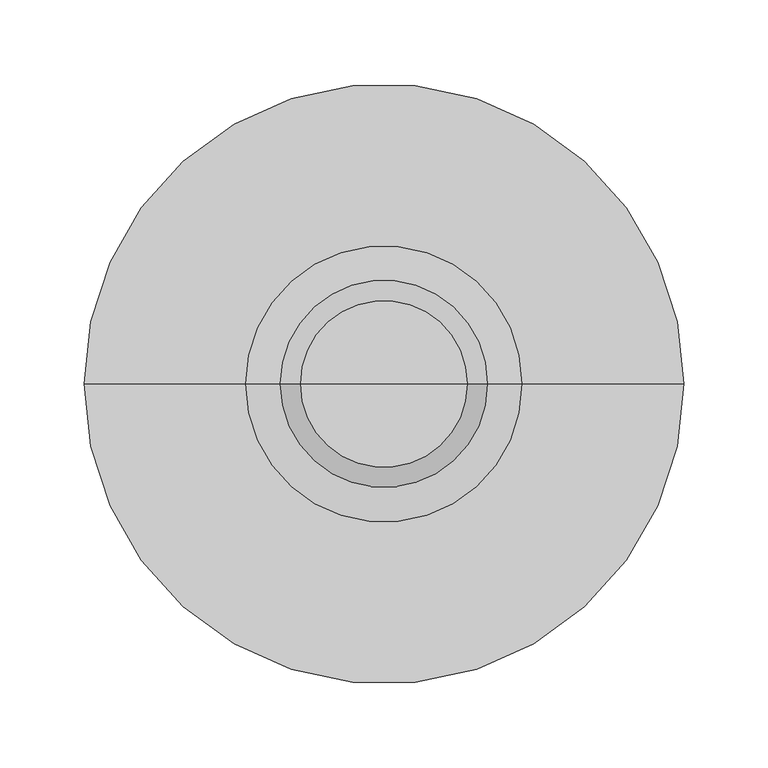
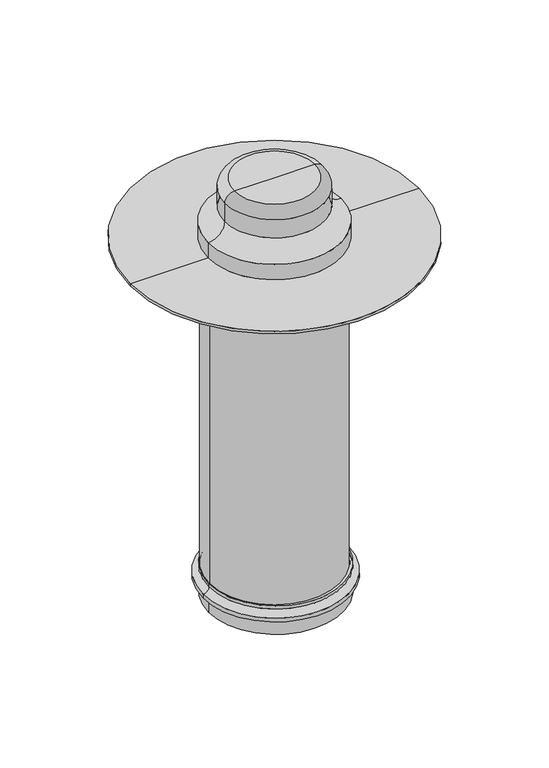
"""IFC4 building model written with IfcOpenShell, lengths in millimetres: flow terminal geometry, BIMLIB_НадставнойЭлемент_Fachmann_VMN : 160х450."""

from ifc_helpers import new_model, si_unit, point, frame, origin, origin_with_axes, place, context, project, spatial, polyline, circle_curve, ellipse_curve, trimmed, source, transform, mapped, element, save
from ifc_brep_helpers import plane_surface, cylinder_surface, revolved_surface, advanced_brep


def flow_terminal_ee0323fd(model_context):
    return source(origin(), model_context, "Body", "AdvancedBrep", [
        advanced_brep(
        [(-53.5, 0.0, -459.0), (56.5, 0.0, -459.0), (56.5, 0.0, -445.0), (-53.5, 0.0, -445.0), (-56.5, 0.0, -459.0), (59.5, 0.0, -459.0), (-56.5, 0.0, -448.0), (59.5, 0.0, -448.0), (-78.0, 0.0, -448.0), (81.0, 0.0, -448.0), (-78.0, 0.0, -459.0), (81.0, 0.0, -459.0), (-81.0, 0.0, -459.0), (84.0, 0.0, -459.0), (-81.0, 0.0, -438.0), (84.0, 0.0, -438.0), (-88.0, 0.0, -438.0), (91.0, 0.0, -438.0), (-88.0, 0.0, -433.0), (91.0, 0.0, -433.0), (-81.0, 0.0, -426.0), (84.0, 0.0, -426.0), (-81.0, 0.0, -422.0), (84.0, 0.0, -422.0), (-78.0, 0.0, -422.0), (81.0, 0.0, -422.0), (-78.0, 0.0, -445.0), (81.0, 0.0, -445.0)],
        [
            (0, 1, circle_curve(frame((1.5, 0.0, -459.0), z_axis=(0.0, 0.0, -1.0), x_axis=(1.0, 0.0, 0.0)), 55.0)),
            (1, 2),
            (2, 3, circle_curve(frame((1.5, 0.0, -445.0), z_axis=(0.0, 0.0, 1.0), x_axis=(1.0, 0.0, 0.0)), 55.0)),
            (3, 0),
            (1, 0, circle_curve(frame((1.5, 0.0, -459.0), z_axis=(0.0, 0.0, -1.0), x_axis=(1.0, 0.0, 0.0)), 55.0)),
            (3, 2, circle_curve(frame((1.5, 0.0, -445.0), z_axis=(0.0, 0.0, 1.0), x_axis=(1.0, 0.0, 0.0)), 55.0)),
            (4, 5, circle_curve(frame((1.5, 0.0, -459.0), z_axis=(0.0, 0.0, -1.0), x_axis=(1.0, 0.0, 0.0)), 58.0)),
            (5, 1),
            (0, 4),
            (5, 4, circle_curve(frame((1.5, 0.0, -459.0), z_axis=(0.0, 0.0, -1.0), x_axis=(1.0, 0.0, 0.0)), 58.0)),
            (6, 7, circle_curve(frame((1.5, 0.0, -448.0), z_axis=(0.0, 0.0, -1.0), x_axis=(1.0, 0.0, 0.0)), 58.0)),
            (7, 5),
            (4, 6),
            (7, 6, circle_curve(frame((1.5, 0.0, -448.0), z_axis=(0.0, 0.0, -1.0), x_axis=(1.0, 0.0, 0.0)), 58.0)),
            (8, 9, circle_curve(frame((1.5, 0.0, -448.0), z_axis=(0.0, 0.0, -1.0), x_axis=(1.0, 0.0, 0.0)), 79.5)),
            (9, 7),
            (6, 8),
            (9, 8, circle_curve(frame((1.5, 0.0, -448.0), z_axis=(0.0, 0.0, -1.0), x_axis=(1.0, 0.0, 0.0)), 79.5)),
            (10, 11, circle_curve(frame((1.5, 0.0, -459.0), z_axis=(0.0, 0.0, -1.0), x_axis=(1.0, 0.0, 0.0)), 79.5)),
            (11, 9),
            (8, 10),
            (11, 10, circle_curve(frame((1.5, 0.0, -459.0), z_axis=(0.0, 0.0, -1.0), x_axis=(1.0, 0.0, 0.0)), 79.5)),
            (12, 13, circle_curve(frame((1.5, 0.0, -459.0), z_axis=(0.0, 0.0, -1.0), x_axis=(1.0, 0.0, 0.0)), 82.5)),
            (13, 11),
            (10, 12),
            (13, 12, circle_curve(frame((1.5, 0.0, -459.0), z_axis=(0.0, 0.0, -1.0), x_axis=(1.0, 0.0, 0.0)), 82.5)),
            (14, 15, circle_curve(frame((1.5, 0.0, -438.0), z_axis=(0.0, 0.0, -1.0), x_axis=(1.0, 0.0, 0.0)), 82.5)),
            (15, 13),
            (12, 14),
            (15, 14, circle_curve(frame((1.5, 0.0, -438.0), z_axis=(0.0, 0.0, -1.0), x_axis=(1.0, 0.0, 0.0)), 82.5)),
            (16, 17, circle_curve(frame((1.5, 0.0, -438.0), z_axis=(0.0, 0.0, -1.0), x_axis=(1.0, 0.0, 0.0)), 89.5)),
            (17, 15),
            (14, 16),
            (17, 16, circle_curve(frame((1.5, 0.0, -438.0), z_axis=(0.0, 0.0, -1.0), x_axis=(1.0, 0.0, 0.0)), 89.5)),
            (18, 19, circle_curve(frame((1.5, 0.0, -433.0), z_axis=(0.0, 0.0, -1.0), x_axis=(1.0, 0.0, 0.0)), 89.5)),
            (19, 17),
            (16, 18),
            (19, 18, circle_curve(frame((1.5, 0.0, -433.0), z_axis=(0.0, 0.0, -1.0), x_axis=(1.0, 0.0, 0.0)), 89.5)),
            (20, 21, circle_curve(frame((1.5, 0.0, -426.0), z_axis=(0.0, 0.0, -1.0), x_axis=(1.0, 0.0, 0.0)), 82.5)),
            (21, 19, circle_curve(frame((91.0, 0.0, -426.0), z_axis=(0.0, -1.0, 0.0), x_axis=(1.0, 0.0, 0.0)), 7.0)),
            (18, 20, circle_curve(frame((-88.0, 0.0, -426.0), z_axis=(0.0, -1.0, 0.0), x_axis=(-1.0, 0.0, 0.0)), 7.0)),
            (21, 20, circle_curve(frame((1.5, 0.0, -426.0), z_axis=(0.0, 0.0, -1.0), x_axis=(1.0, 0.0, 0.0)), 82.5)),
            (22, 23, circle_curve(frame((1.5, 0.0, -422.0), z_axis=(0.0, 0.0, -1.0), x_axis=(1.0, 0.0, 0.0)), 82.5)),
            (23, 21),
            (20, 22),
            (23, 22, circle_curve(frame((1.5, 0.0, -422.0), z_axis=(0.0, 0.0, -1.0), x_axis=(1.0, 0.0, 0.0)), 82.5)),
            (24, 25, circle_curve(frame((1.5, 0.0, -422.0), z_axis=(0.0, 0.0, -1.0), x_axis=(1.0, 0.0, 0.0)), 79.5)),
            (25, 23),
            (22, 24),
            (25, 24, circle_curve(frame((1.5, 0.0, -422.0), z_axis=(0.0, 0.0, -1.0), x_axis=(1.0, 0.0, 0.0)), 79.5)),
            (26, 27, circle_curve(frame((1.5, 0.0, -445.0), z_axis=(0.0, 0.0, -1.0), x_axis=(1.0, 0.0, 0.0)), 79.5)),
            (27, 25),
            (24, 26),
            (27, 26, circle_curve(frame((1.5, 0.0, -445.0), z_axis=(0.0, 0.0, -1.0), x_axis=(1.0, 0.0, 0.0)), 79.5)),
            (2, 27),
            (26, 3),
        ],
        [
            revolved_surface(polyline([(56.5, 0.0, -445.0), (56.5, 0.0, -459.0)]), (1.5, 0.0, -119.0), (0.0, 0.0, 1.0)),
            plane_surface(frame((1.5, 0.0, -459.0), z_axis=(0.0, 0.0, -1.0), x_axis=(1.0, 0.0, 0.0))),
            cylinder_surface(frame((1.5, 0.0, -119.0), z_axis=(0.0, 0.0, 1.0), x_axis=(1.0, 0.0, 0.0)), 58.0),
            plane_surface(frame((1.5, 0.0, -448.0), z_axis=(0.0, 0.0, -1.0), x_axis=(1.0, 0.0, 0.0))),
            revolved_surface(polyline([(81.0, 0.0, -448.0), (81.0, 0.0, -459.0)]), (1.5, 0.0, -119.0), (0.0, 0.0, 1.0)),
            cylinder_surface(frame((1.5, 0.0, -119.0), z_axis=(0.0, 0.0, 1.0), x_axis=(1.0, 0.0, 0.0)), 82.5),
            plane_surface(frame((1.5, 0.0, -438.0), z_axis=(0.0, 0.0, -1.0), x_axis=(1.0, 0.0, 0.0))),
            cylinder_surface(frame((1.5, 0.0, -119.0), z_axis=(0.0, 0.0, 1.0), x_axis=(1.0, 0.0, 0.0)), 89.5),
            revolved_surface(trimmed(ellipse_curve(frame((91.0, 0.0, -426.0), z_axis=(0.0, 1.0, 0.0), x_axis=(1.0, 0.0, 0.0)), 7.0, 7.0), [point((91.0, 0.0, -433.0))], [point((84.0, 0.0, -426.0))], True, "CARTESIAN"), (1.5, 0.0, -119.0), (0.0, 0.0, 1.0)),
            plane_surface(frame((1.5, 0.0, -422.0), z_axis=(0.0, 0.0, 1.0), x_axis=(1.0, 0.0, 0.0))),
            revolved_surface(polyline([(81.0, 0.0, -422.0), (81.0, 0.0, -445.0)]), (1.5, 0.0, -119.0), (0.0, 0.0, 1.0)),
            plane_surface(frame((1.5, 0.0, -445.0), z_axis=(0.0, 0.0, 1.0), x_axis=(1.0, 0.0, 0.0))),
        ],
        [
            (0, [[1, 2, 3, 4]]),
            (0, [[5, -4, 6, -2]]),
            (1, [[7, 8, -1, 9]]),
            (1, [[10, -9, -5, -8]]),
            (2, [[11, 12, -7, 13]]),
            (2, [[14, -13, -10, -12]]),
            (3, [[15, 16, -11, 17]]),
            (3, [[18, -17, -14, -16]]),
            (4, [[19, 20, -15, 21]]),
            (4, [[22, -21, -18, -20]]),
            (1, [[23, 24, -19, 25]]),
            (1, [[26, -25, -22, -24]]),
            (5, [[27, 28, -23, 29]]),
            (5, [[30, -29, -26, -28]]),
            (6, [[31, 32, -27, 33]]),
            (6, [[34, -33, -30, -32]]),
            (7, [[35, 36, -31, 37]]),
            (7, [[38, -37, -34, -36]]),
            (8, [[39, 40, -35, 41]]),
            (8, [[42, -41, -38, -40]]),
            (5, [[43, 44, -39, 45]]),
            (5, [[46, -45, -42, -44]]),
            (9, [[47, 48, -43, 49]]),
            (9, [[50, -49, -46, -48]]),
            (10, [[51, 52, -47, 53]]),
            (10, [[54, -53, -50, -52]]),
            (11, [[-3, 55, -51, 56]]),
            (11, [[-6, -56, -54, -55]]),
        ],
    ),
        advanced_brep(
        [(80.0, 0.0, -445.0), (-80.0, 0.0, -445.0), (-80.0, 0.0, -57.0), (80.0, 0.0, -57.0), (-113.0, 0.0, -9.0), (113.0, 0.0, -9.0), (113.0, 0.0, -32.0), (-113.0, 0.0, -32.0), (0.0, 0.0, 0.0), (138.0, 0.0, 0.0), (-138.0, 0.0, 0.0), (-90.0, 0.0, -32.0), (90.0, 0.0, -32.0), (90.0, 0.0, -40.0), (-90.0, 0.0, -40.0)],
        [
            (0, 1, circle_curve(frame((0.0, 0.0, -445.0), z_axis=(0.0, 0.0, -1.0), x_axis=(-1.0, 0.0, 0.0)), 80.0)),
            (1, 0, circle_curve(frame((0.0, 0.0, -445.0), z_axis=(0.0, 0.0, -1.0), x_axis=(-1.0, 0.0, 0.0)), 80.0)),
            (1, 2),
            (2, 3, circle_curve(frame((0.0, 0.0, -57.0), z_axis=(0.0, 0.0, -1.0), x_axis=(-1.0, 0.0, 0.0)), 80.0)),
            (3, 0),
            (3, 2, circle_curve(frame((0.0, 0.0, -57.0), z_axis=(0.0, 0.0, -1.0), x_axis=(-1.0, 0.0, 0.0)), 80.0)),
            (4, 5, circle_curve(frame((0.0, 0.0, -9.0), z_axis=(0.0, 0.0, -1.0), x_axis=(1.0, 0.0, 0.0)), 113.0)),
            (5, 6),
            (6, 7, circle_curve(frame((0.0, 0.0, -32.0), z_axis=(0.0, 0.0, 1.0), x_axis=(1.0, 0.0, 0.0)), 113.0)),
            (7, 4),
            (5, 4, circle_curve(frame((0.0, 0.0, -9.0), z_axis=(0.0, 0.0, -1.0), x_axis=(1.0, 0.0, 0.0)), 113.0)),
            (7, 6, circle_curve(frame((0.0, 0.0, -32.0), z_axis=(0.0, 0.0, 1.0), x_axis=(1.0, 0.0, 0.0)), 113.0)),
            (8, 9),
            (9, 10, circle_curve(origin_with_axes(), 138.0)),
            (10, 8),
            (10, 9, circle_curve(origin_with_axes(), 138.0)),
            (4, 10),
            (9, 5),
            (11, 12, circle_curve(frame((0.0, 0.0, -32.0), z_axis=(0.0, 0.0, -1.0), x_axis=(1.0, 0.0, 0.0)), 90.0)),
            (12, 13),
            (13, 14, circle_curve(frame((0.0, 0.0, -40.0), z_axis=(0.0, 0.0, 1.0), x_axis=(1.0, 0.0, 0.0)), 90.0)),
            (14, 11),
            (12, 11, circle_curve(frame((0.0, 0.0, -32.0), z_axis=(0.0, 0.0, -1.0), x_axis=(1.0, 0.0, 0.0)), 90.0)),
            (14, 13, circle_curve(frame((0.0, 0.0, -40.0), z_axis=(0.0, 0.0, 1.0), x_axis=(1.0, 0.0, 0.0)), 90.0)),
            (6, 12),
            (11, 7),
            (13, 3),
            (2, 14),
        ],
        [
            plane_surface(frame((-80.0, 0.0, -445.0), z_axis=(0.0, 0.0, -1.0), x_axis=(0.0, 1.0, 0.0))),
            cylinder_surface(frame((0.0, 0.0, -445.0), z_axis=(0.0, 0.0, 1.0), x_axis=(-1.0, 0.0, 0.0)), 80.0),
            cylinder_surface(frame((0.0, 0.0, 159.0), z_axis=(0.0, 0.0, 1.0), x_axis=(1.0, 0.0, 0.0)), 113.0),
            plane_surface(origin_with_axes()),
            revolved_surface(polyline([(113.0, 0.0, -9.0), (138.0, 0.0, 0.0)]), (0.0, 0.0, 159.0), (0.0, 0.0, 1.0)),
            cylinder_surface(frame((0.0, 0.0, 159.0), z_axis=(0.0, 0.0, 1.0), x_axis=(1.0, 0.0, 0.0)), 90.0),
            plane_surface(frame((0.0, 0.0, -32.0), z_axis=(0.0, 0.0, -1.0), x_axis=(1.0, 0.0, 0.0))),
            revolved_surface(polyline([(80.0, 0.0, -57.0), (90.0, 0.0, -40.0)]), (0.0, 0.0, 159.0), (0.0, 0.0, 1.0)),
        ],
        [
            (0, [[1, 2]]),
            (1, [[-2, 3, 4, 5]]),
            (1, [[-1, -5, 6, -3]]),
            (2, [[7, 8, 9, 10]]),
            (2, [[-8, 11, -10, 12]]),
            (3, [[13, 14, 15]]),
            (3, [[-13, -15, 16]]),
            (4, [[-7, 17, -14, 18]]),
            (4, [[-11, -18, -16, -17]]),
            (5, [[19, 20, 21, 22]]),
            (5, [[-20, 23, -22, 24]]),
            (6, [[-9, 25, -19, 26]]),
            (6, [[-12, -26, -23, -25]]),
            (7, [[-21, 27, -4, 28]]),
            (7, [[-24, -28, -6, -27]]),
        ],
    ),
        advanced_brep(
        [(0.0, 0.0, 79.0), (49.5, 0.0, 79.0), (-49.5, 0.0, 79.0), (-178.0, 0.0, 0.0), (178.0, 0.0, 0.0), (0.0, 0.0, 0.0), (-178.0, 0.0, 3.0), (178.0, 0.0, 3.0), (-82.0, 0.0, 3.0), (82.0, 0.0, 3.0), (-61.5, 0.0, 67.0), (61.5, 0.0, 67.0), (61.5, 0.0, 43.5), (-61.5, 0.0, 43.5), (-82.0, 0.0, 23.0), (82.0, 0.0, 23.0)],
        [
            (0, 1),
            (1, 2, circle_curve(frame((0.0, 0.0, 79.0), z_axis=(0.0, 0.0, 1.0), x_axis=(1.0, 0.0, 0.0)), 49.5)),
            (2, 0),
            (2, 1, circle_curve(frame((0.0, 0.0, 79.0), z_axis=(0.0, 0.0, 1.0), x_axis=(1.0, 0.0, 0.0)), 49.5)),
            (3, 4, circle_curve(frame((0.0, 0.0, 0.0), z_axis=(0.0, 0.0, -1.0), x_axis=(1.0, 0.0, 0.0)), 178.0)),
            (4, 5),
            (5, 3),
            (4, 3, circle_curve(frame((0.0, 0.0, 0.0), z_axis=(0.0, 0.0, -1.0), x_axis=(1.0, 0.0, 0.0)), 178.0)),
            (6, 7, circle_curve(frame((0.0, 0.0, 3.0), z_axis=(0.0, 0.0, -1.0), x_axis=(1.0, 0.0, 0.0)), 178.0)),
            (7, 4),
            (3, 6),
            (7, 6, circle_curve(frame((0.0, 0.0, 3.0), z_axis=(0.0, 0.0, -1.0), x_axis=(1.0, 0.0, 0.0)), 178.0)),
            (8, 9, circle_curve(frame((0.0, 0.0, 3.0), z_axis=(0.0, 0.0, -1.0), x_axis=(1.0, 0.0, 0.0)), 82.0)),
            (9, 7),
            (6, 8),
            (9, 8, circle_curve(frame((0.0, 0.0, 3.0), z_axis=(0.0, 0.0, -1.0), x_axis=(1.0, 0.0, 0.0)), 82.0)),
            (10, 11, circle_curve(frame((0.0, 0.0, 67.0), z_axis=(0.0, 0.0, -1.0), x_axis=(1.0, 0.0, 0.0)), 61.5)),
            (11, 12),
            (12, 13, circle_curve(frame((0.0, 0.0, 43.5), z_axis=(0.0, 0.0, 1.0), x_axis=(1.0, 0.0, 0.0)), 61.5)),
            (13, 10),
            (11, 10, circle_curve(frame((0.0, 0.0, 67.0), z_axis=(0.0, 0.0, -1.0), x_axis=(1.0, 0.0, 0.0)), 61.5)),
            (13, 12, circle_curve(frame((0.0, 0.0, 43.5), z_axis=(0.0, 0.0, 1.0), x_axis=(1.0, 0.0, 0.0)), 61.5)),
            (1, 11, circle_curve(frame((49.5, 0.0, 67.0), z_axis=(0.0, 1.0, 0.0), x_axis=(1.0, 0.0, 0.0)), 12.0)),
            (10, 2, circle_curve(frame((-49.5, 0.0, 67.0), z_axis=(0.0, 1.0, 0.0), x_axis=(-1.0, 0.0, 0.0)), 12.0)),
            (14, 15, circle_curve(frame((0.0, 0.0, 23.0), z_axis=(0.0, 0.0, -1.0), x_axis=(1.0, 0.0, 0.0)), 82.0)),
            (15, 9),
            (8, 14),
            (15, 14, circle_curve(frame((0.0, 0.0, 23.0), z_axis=(0.0, 0.0, -1.0), x_axis=(1.0, 0.0, 0.0)), 82.0)),
            (12, 15, circle_curve(frame((82.0, 0.0, 43.5), z_axis=(0.0, -1.0, 0.0), x_axis=(1.0, 0.0, 0.0)), 20.5)),
            (14, 13, circle_curve(frame((-82.0, 0.0, 43.5), z_axis=(0.0, -1.0, 0.0), x_axis=(-1.0, 0.0, 0.0)), 20.5)),
        ],
        [
            plane_surface(frame((0.0, 0.0, 79.0), z_axis=(0.0, 0.0, 1.0), x_axis=(1.0, 0.0, 0.0))),
            plane_surface(frame((0.0, 0.0, 0.0), z_axis=(0.0, 0.0, -1.0), x_axis=(1.0, 0.0, 0.0))),
            cylinder_surface(frame((0.0, 0.0, 229.0), z_axis=(0.0, 0.0, 1.0), x_axis=(1.0, 0.0, 0.0)), 178.0),
            plane_surface(frame((0.0, 0.0, 3.0), z_axis=(0.0, 0.0, 1.0), x_axis=(1.0, 0.0, 0.0))),
            cylinder_surface(frame((0.0, 0.0, 229.0), z_axis=(0.0, 0.0, 1.0), x_axis=(1.0, 0.0, 0.0)), 61.5),
            revolved_surface(trimmed(ellipse_curve(frame((49.5, 0.0, 67.0), z_axis=(0.0, -1.0, 0.0), x_axis=(1.0, 0.0, 0.0)), 12.0, 12.0), [point((61.5, 0.0, 67.0))], [point((49.5, 0.0, 79.0))], True, "CARTESIAN"), (0.0, 0.0, 229.0), (0.0, 0.0, 1.0)),
            cylinder_surface(frame((0.0, 0.0, 229.0), z_axis=(0.0, 0.0, 1.0), x_axis=(1.0, 0.0, 0.0)), 82.0),
            revolved_surface(trimmed(ellipse_curve(frame((82.0, 0.0, 43.5), z_axis=(0.0, 1.0, 0.0), x_axis=(1.0, 0.0, 0.0)), 20.5, 20.5), [point((82.0, 0.0, 23.0))], [point((61.5, 0.0, 43.5))], True, "CARTESIAN"), (0.0, 0.0, 229.0), (0.0, 0.0, 1.0)),
        ],
        [
            (0, [[1, 2, 3]]),
            (0, [[-3, 4, -1]]),
            (1, [[5, 6, 7]]),
            (1, [[8, -7, -6]]),
            (2, [[9, 10, -5, 11]]),
            (2, [[12, -11, -8, -10]]),
            (3, [[13, 14, -9, 15]]),
            (3, [[16, -15, -12, -14]]),
            (4, [[17, 18, 19, 20]]),
            (4, [[21, -20, 22, -18]]),
            (5, [[-2, 23, -17, 24]]),
            (5, [[-4, -24, -21, -23]]),
            (6, [[25, 26, -13, 27]]),
            (6, [[28, -27, -16, -26]]),
            (7, [[-19, 29, -25, 30]]),
            (7, [[-22, -30, -28, -29]]),
        ],
    ),
    ])


if __name__ == "__main__":
    model = new_model("IFC4")
    model_context = context("Model", 3, world=origin())
    ifc_project = project(units=[si_unit("LENGTHUNIT", "METRE", prefix="MILLI")], contexts=[model_context])
    site = spatial("IfcSite", under=ifc_project)
    building = spatial("IfcBuilding", under=site)
    placement = place(None, origin())
    flow_terminal_shape = flow_terminal_ee0323fd(model_context)
    element("IfcFlowTerminal", 1, ObjectType="BIMLIB_НадставнойЭлемент_Fachmann_VMN : 160х450", at=placement, inside=building, context=model_context, shape_type="MappedRepresentation", body=[
        mapped(flow_terminal_shape, transform((0.0, 0.0, 0.0), x_axis=(1.0, 0.0, 0.0), y_axis=(0.0, 1.0, 0.0), z_axis=(0.0, 0.0, 1.0))),
    ])
    save(model, "model.ifc")
